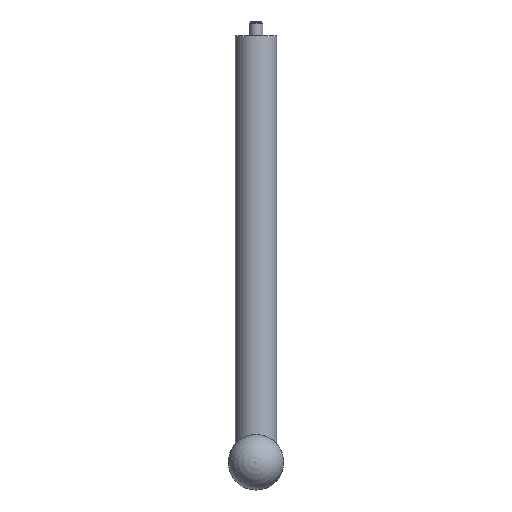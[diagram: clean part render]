
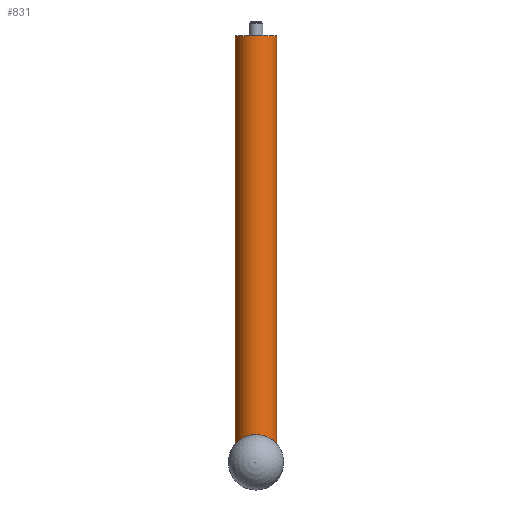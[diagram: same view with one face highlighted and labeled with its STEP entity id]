
A CAD part, front view. The second image highlights one B-rep face of the part: STEP entity #831.
In plain terms, the highlighted cylindrical face has radius 7.5 mm (diameter 15 mm), a full revolution.
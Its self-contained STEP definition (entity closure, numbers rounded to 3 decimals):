
#117=CYLINDRICAL_SURFACE('',#994,7.5);
#132=FACE_OUTER_BOUND('',#179,.T.);
#179=EDGE_LOOP('',(#602,#603,#604,#605));
#237=LINE('',#1388,#283);
#283=VECTOR('',#1126,7.5);
#333=CIRCLE('',#995,7.5);
#334=CIRCLE('',#996,7.5);
#386=VERTEX_POINT('',#1385);
#387=VERTEX_POINT('',#1387);
#475=EDGE_CURVE('',#386,#386,#333,.T.);
#476=EDGE_CURVE('',#386,#387,#237,.T.);
#477=EDGE_CURVE('',#387,#387,#334,.T.);
#602=ORIENTED_EDGE('',*,*,#475,.F.);
#603=ORIENTED_EDGE('',*,*,#476,.T.);
#604=ORIENTED_EDGE('',*,*,#477,.F.);
#605=ORIENTED_EDGE('',*,*,#476,.F.);
#831=ADVANCED_FACE('',(#132),#117,.T.);
#994=AXIS2_PLACEMENT_3D('',#1384,#1122,#1123);
#995=AXIS2_PLACEMENT_3D('',#1386,#1124,#1125);
#996=AXIS2_PLACEMENT_3D('',#1389,#1127,#1128);
#1122=DIRECTION('center_axis',(0.,0.,1.));
#1123=DIRECTION('ref_axis',(-1.,0.,0.));
#1124=DIRECTION('center_axis',(0.,0.,1.));
#1125=DIRECTION('ref_axis',(-1.,0.,0.));
#1126=DIRECTION('',(0.,0.,-1.));
#1127=DIRECTION('center_axis',(0.,0.,-1.));
#1128=DIRECTION('ref_axis',(-1.,0.,0.));
#1384=CARTESIAN_POINT('Origin',(0.,0.,0.));
#1385=CARTESIAN_POINT('',(7.5,0.,150.));
#1386=CARTESIAN_POINT('Origin',(0.,0.,150.));
#1387=CARTESIAN_POINT('',(7.5,0.,0.));
#1388=CARTESIAN_POINT('',(7.5,0.,0.));
#1389=CARTESIAN_POINT('Origin',(0.,0.,0.));
